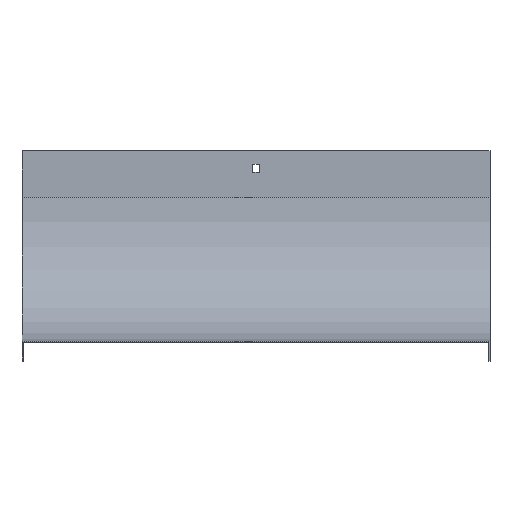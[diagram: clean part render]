
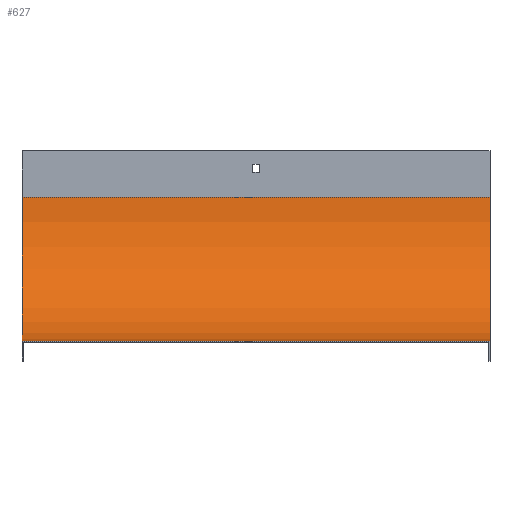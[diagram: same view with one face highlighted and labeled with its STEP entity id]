
A CAD part, top view. The second image highlights one B-rep face of the part: STEP entity #627.
In plain terms, the highlighted cylindrical face has radius 124 mm (diameter 248 mm), a partial arc.
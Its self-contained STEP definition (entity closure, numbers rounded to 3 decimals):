
#5 = EDGE_CURVE ( 'NONE', #802, #684, #145, .T. ) ;
#12 = DIRECTION ( 'NONE',  ( -1., 0., 0. ) ) ;
#53 = ORIENTED_EDGE ( 'NONE', *, *, #192, .F. ) ;
#82 = DIRECTION ( 'NONE',  ( -1., 0., 0. ) ) ;
#84 = CARTESIAN_POINT ( 'NONE',  ( 201., 124., -40. ) ) ;
#93 = LINE ( 'NONE', #221, #444 ) ;
#145 = LINE ( 'NONE', #400, #582 ) ;
#163 = EDGE_CURVE ( 'NONE', #398, #684, #360, .T. ) ;
#168 = VERTEX_POINT ( 'NONE', #827 ) ;
#192 = EDGE_CURVE ( 'NONE', #168, #802, #795, .T. ) ;
#218 = AXIS2_PLACEMENT_3D ( 'NONE', #84, #289, #821 ) ;
#221 = CARTESIAN_POINT ( 'NONE',  ( 201., 124., -164. ) ) ;
#224 = CARTESIAN_POINT ( 'NONE',  ( 201., 0., -40. ) ) ;
#241 = ORIENTED_EDGE ( 'NONE', *, *, #5, .F. ) ;
#254 = DIRECTION ( 'NONE',  ( 0., 0., 1. ) ) ;
#262 = CARTESIAN_POINT ( 'NONE',  ( -201., 124., -164. ) ) ;
#289 = DIRECTION ( 'NONE',  ( -1., 0., 0. ) ) ;
#337 = DIRECTION ( 'NONE',  ( -1., 0., 0. ) ) ;
#360 = CIRCLE ( 'NONE', #777, 124. ) ;
#398 = VERTEX_POINT ( 'NONE', #262 ) ;
#400 = CARTESIAN_POINT ( 'NONE',  ( 201., 0., -40. ) ) ;
#426 = DIRECTION ( 'NONE',  ( 0., 0., -1. ) ) ;
#444 = VECTOR ( 'NONE', #82, 1000. ) ;
#518 = CARTESIAN_POINT ( 'NONE',  ( -201., 0., -40. ) ) ;
#532 = CYLINDRICAL_SURFACE ( 'NONE', #616, 124. ) ;
#572 = EDGE_CURVE ( 'NONE', #168, #398, #93, .T. ) ;
#580 = EDGE_LOOP ( 'NONE', ( #710, #241, #53, #646 ) ) ;
#582 = VECTOR ( 'NONE', #819, 1000. ) ;
#610 = FACE_OUTER_BOUND ( 'NONE', #580, .T. ) ;
#616 = AXIS2_PLACEMENT_3D ( 'NONE', #813, #337, #254 ) ;
#620 = CARTESIAN_POINT ( 'NONE',  ( -201., 124., -40. ) ) ;
#627 = ADVANCED_FACE ( 'NONE', ( #610 ), #532, .F. ) ;
#646 = ORIENTED_EDGE ( 'NONE', *, *, #572, .T. ) ;
#684 = VERTEX_POINT ( 'NONE', #518 ) ;
#710 = ORIENTED_EDGE ( 'NONE', *, *, #163, .T. ) ;
#777 = AXIS2_PLACEMENT_3D ( 'NONE', #620, #12, #426 ) ;
#795 = CIRCLE ( 'NONE', #218, 124. ) ;
#802 = VERTEX_POINT ( 'NONE', #224 ) ;
#813 = CARTESIAN_POINT ( 'NONE',  ( 201., 124., -40. ) ) ;
#819 = DIRECTION ( 'NONE',  ( -1., 0., 0. ) ) ;
#821 = DIRECTION ( 'NONE',  ( 0., 0., -1. ) ) ;
#827 = CARTESIAN_POINT ( 'NONE',  ( 201., 124., -164. ) ) ;
